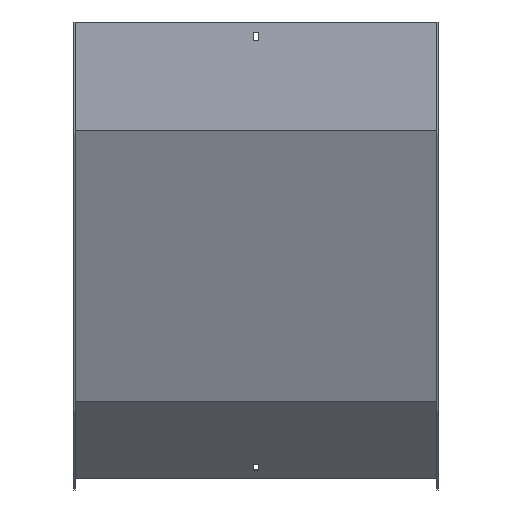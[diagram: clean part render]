
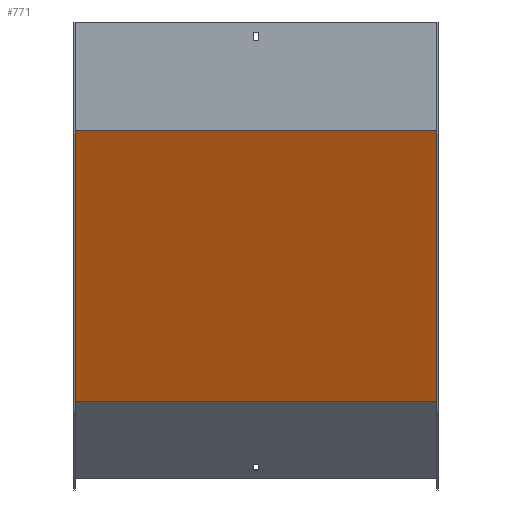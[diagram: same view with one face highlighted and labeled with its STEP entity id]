
A CAD part, front view. The second image highlights one B-rep face of the part: STEP entity #771.
In plain terms, the highlighted planar face has unit normal (0, -0.924, -0.383).
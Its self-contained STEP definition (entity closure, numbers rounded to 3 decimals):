
#8 = CARTESIAN_POINT ( 'NONE',  ( 201.5, 122.335, -419.263 ) ) ;
#39 = ORIENTED_EDGE ( 'NONE', *, *, #126, .F. ) ;
#41 = VERTEX_POINT ( 'NONE', #559 ) ;
#49 = CARTESIAN_POINT ( 'NONE',  ( -200., -43.812, -18.148 ) ) ;
#126 = EDGE_CURVE ( 'NONE', #606, #41, #191, .T. ) ;
#139 = PLANE ( 'NONE',  #152 ) ;
#142 = DIRECTION ( 'NONE',  ( 0., 0.924, 0.383 ) ) ;
#152 = AXIS2_PLACEMENT_3D ( 'NONE', #408, #142, #680 ) ;
#167 = VECTOR ( 'NONE', #479, 1000. ) ;
#170 = CARTESIAN_POINT ( 'NONE',  ( -200., -1.5, -120.298 ) ) ;
#176 = CARTESIAN_POINT ( 'NONE',  ( 200., -1.5, -120.298 ) ) ;
#191 = LINE ( 'NONE', #309, #504 ) ;
#202 = EDGE_CURVE ( 'NONE', #606, #516, #486, .T. ) ;
#210 = VERTEX_POINT ( 'NONE', #483 ) ;
#309 = CARTESIAN_POINT ( 'NONE',  ( 200., -43.812, -18.148 ) ) ;
#326 = LINE ( 'NONE', #8, #518 ) ;
#346 = ORIENTED_EDGE ( 'NONE', *, *, #202, .T. ) ;
#394 = DIRECTION ( 'NONE',  ( -1., 0., 0. ) ) ;
#408 = CARTESIAN_POINT ( 'NONE',  ( 201.5, -1.386, -120.574 ) ) ;
#457 = LINE ( 'NONE', #49, #714 ) ;
#479 = DIRECTION ( 'NONE',  ( -1., 0., 0. ) ) ;
#483 = CARTESIAN_POINT ( 'NONE',  ( -200., 122.335, -419.263 ) ) ;
#485 = EDGE_CURVE ( 'NONE', #516, #210, #457, .T. ) ;
#486 = LINE ( 'NONE', #539, #167 ) ;
#504 = VECTOR ( 'NONE', #792, 1000. ) ;
#516 = VERTEX_POINT ( 'NONE', #170 ) ;
#518 = VECTOR ( 'NONE', #394, 1000. ) ;
#539 = CARTESIAN_POINT ( 'NONE',  ( 201.5, -1.5, -120.298 ) ) ;
#559 = CARTESIAN_POINT ( 'NONE',  ( 200., 122.335, -419.263 ) ) ;
#606 = VERTEX_POINT ( 'NONE', #176 ) ;
#626 = ORIENTED_EDGE ( 'NONE', *, *, #485, .T. ) ;
#680 = DIRECTION ( 'NONE',  ( 0., -0.383, 0.924 ) ) ;
#714 = VECTOR ( 'NONE', #774, 1000. ) ;
#727 = EDGE_CURVE ( 'NONE', #41, #210, #326, .T. ) ;
#740 = FACE_OUTER_BOUND ( 'NONE', #820, .T. ) ;
#771 = ADVANCED_FACE ( 'NONE', ( #740 ), #139, .F. ) ;
#774 = DIRECTION ( 'NONE',  ( 0., 0.383, -0.924 ) ) ;
#792 = DIRECTION ( 'NONE',  ( 0., 0.383, -0.924 ) ) ;
#820 = EDGE_LOOP ( 'NONE', ( #626, #822, #39, #346 ) ) ;
#822 = ORIENTED_EDGE ( 'NONE', *, *, #727, .F. ) ;
